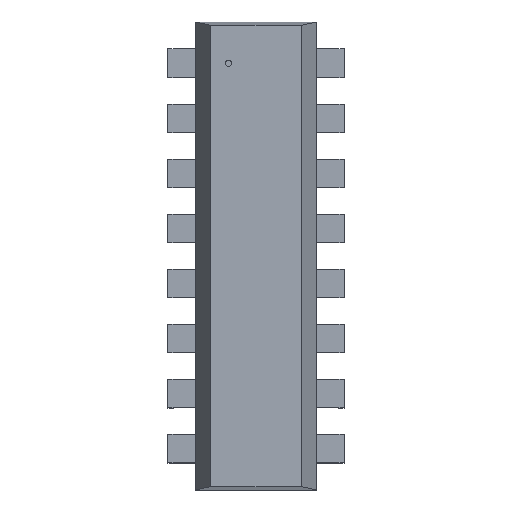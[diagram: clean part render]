
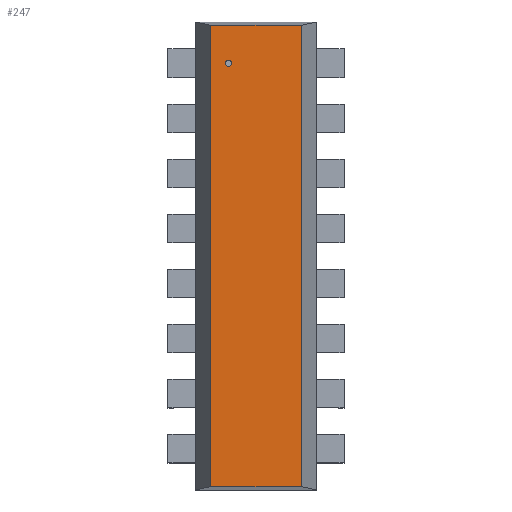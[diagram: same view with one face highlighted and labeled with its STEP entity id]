
A CAD part, top view. The second image highlights one B-rep face of the part: STEP entity #247.
In plain terms, the highlighted planar face has unit normal (0, 0, 1).
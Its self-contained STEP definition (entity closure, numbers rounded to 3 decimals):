
#247=ADVANCED_FACE('',(#253),#248,.T.);
#248=PLANE('',#249);
#249=AXIS2_PLACEMENT_3D('',#250,#251,#252);
#250=CARTESIAN_POINT('',(1.854,-19.533,5.207));
#251=DIRECTION('',(0.0,0.0,1.0));
#252=DIRECTION('',(0.,1.,0.));
#253=FACE_OUTER_BOUND('',#254,.T.);
#254=EDGE_LOOP('',(#255,#265,#275,#285));
#258=CARTESIAN_POINT('',(6.02,-19.533,5.207));
#257=VERTEX_POINT('',#258);
#260=CARTESIAN_POINT('',(1.854,-19.533,5.207));
#259=VERTEX_POINT('',#260);
#256=EDGE_CURVE('',#257,#259,#261,.T.);
#261=LINE('',#258,#263);
#263=VECTOR('',#264,4.166);
#264=DIRECTION('',(-1.0,0.0,0.0));
#255=ORIENTED_EDGE('',*,*,#256,.F.);
#268=CARTESIAN_POINT('',(6.02,1.753,5.207));
#267=VERTEX_POINT('',#268);
#266=EDGE_CURVE('',#267,#257,#271,.T.);
#271=LINE('',#268,#273);
#273=VECTOR('',#274,21.285);
#274=DIRECTION('',(0.0,-1.0,0.0));
#265=ORIENTED_EDGE('',*,*,#266,.F.);
#278=CARTESIAN_POINT('',(1.854,1.753,5.207));
#277=VERTEX_POINT('',#278);
#276=EDGE_CURVE('',#277,#267,#281,.T.);
#281=LINE('',#278,#283);
#283=VECTOR('',#284,4.166);
#284=DIRECTION('',(1.0,0.0,0.0));
#275=ORIENTED_EDGE('',*,*,#276,.F.);
#286=EDGE_CURVE('',#259,#277,#291,.T.);
#291=LINE('',#260,#293);
#293=VECTOR('',#294,21.285);
#294=DIRECTION('',(0.0,1.0,0.0));
#285=ORIENTED_EDGE('',*,*,#286,.F.);
